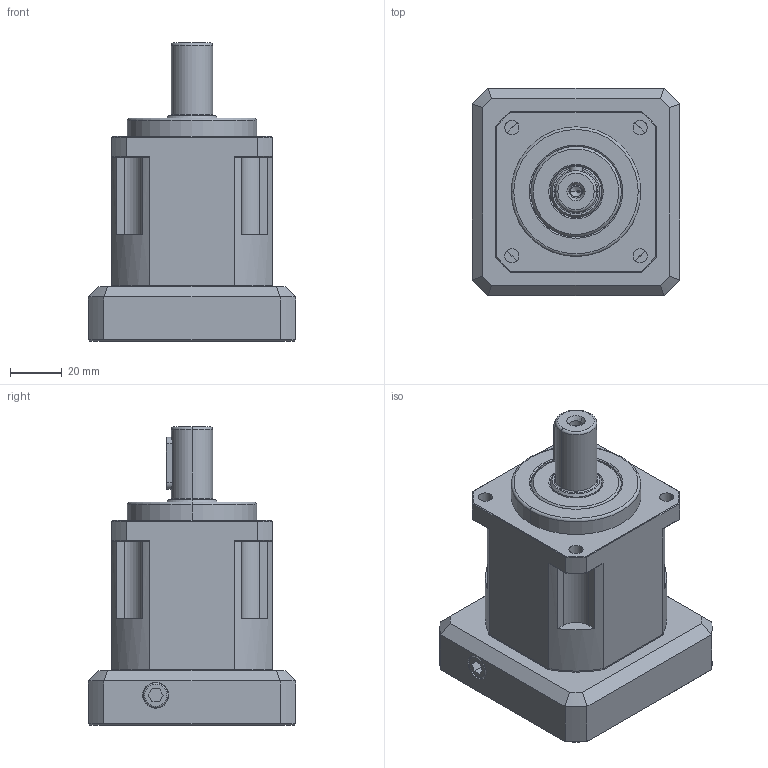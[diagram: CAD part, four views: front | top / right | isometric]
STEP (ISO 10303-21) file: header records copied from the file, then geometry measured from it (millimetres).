
FILE_DESCRIPTION (( 'STEP AP203' ), '1' );
FILE_NAME ('SB62-1-70M6-2.step', '2021-11-08T06:21:14', ( '' ), ( '' ), 'SwSTEP 2.0', 'SolidWorks 2020', '' );
FILE_SCHEMA (( 'CONFIG_CONTROL_DESIGN' ));
Length unit declared in the file: millimetre
Products named in the file (1): SB62-1-70M6-2
Bounding box: 80 x 80 x 115 mm (x, y, z)
Volume: 271266.9 mm3; surface area: 58720.4 mm2
Topology: 2 solids, 15 shells, 657 faces, 1571 edges, 954 vertices
Faces by surface type: plane 283, cylinder 187, cone 154, torus 31, bspline 2
Entity records: 19384 total; most frequent: CARTESIAN_POINT 3865, DIRECTION 3435, ORIENTED_EDGE 3074, EDGE_CURVE 1537, AXIS2_PLACEMENT_3D 1340, VERTEX_POINT 954, VECTOR 755, LINE 755
